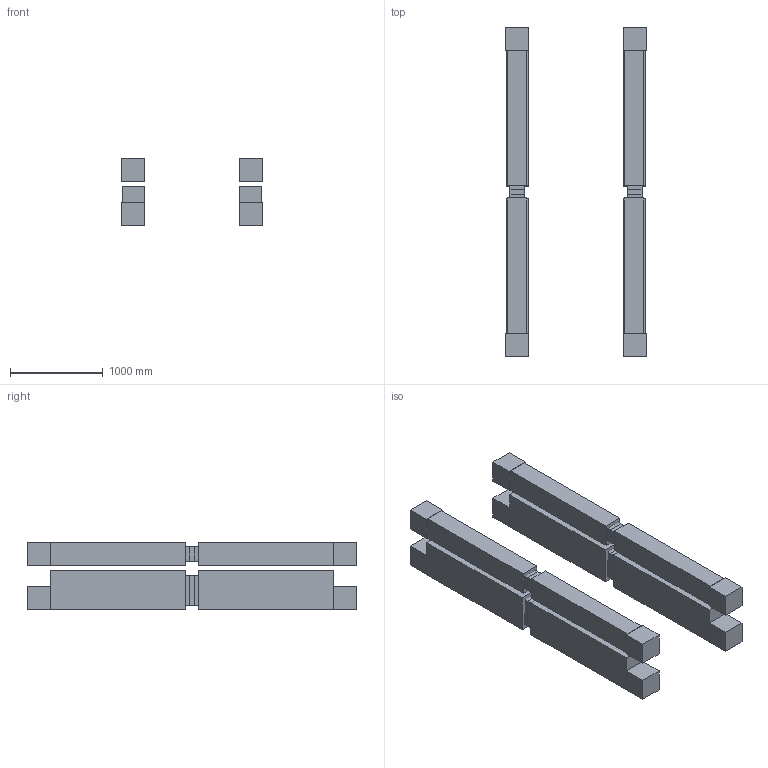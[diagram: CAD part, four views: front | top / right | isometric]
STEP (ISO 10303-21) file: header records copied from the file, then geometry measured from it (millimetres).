
FILE_DESCRIPTION(('Open CASCADE Model'),'2;1');
FILE_NAME('Open CASCADE Shape Model','2026-11-05T12:20:15',('Author'),( 'Open CASCADE'),'Open CASCADE STEP processor 7.9','Open CASCADE 7.9' ,'Unknown');
FILE_SCHEMA(('AP242_MANAGED_MODEL_BASED_3D_ENGINEERING_MIM_LF {1 0 10303 442 1 1 4 }' ));
Length unit declared in the file: millimetre
Products named in the file (25): D01_SERVICE_ENVELOPES_REFERENCE; AFP_FULL_ROTATION_BOUND; AFR_FULL_ROTATION_BOUND; ARP_FULL_ROTATION_BOUND; ARR_FULL_ROTATION_BOUND; BFP_FULL_ROTATION_BOUND; BFR_FULL_ROTATION_BOUND; BRP_FULL_ROTATION_BOUND; BRR_FULL_ROTATION_BOUND; AFP_ACTUATOR_SELECTION_RESERVE; AFR_ACTUATOR_SELECTION_RESERVE; ARP_ACTUATOR_SELECTION_RESERVE; ARR_ACTUATOR_SELECTION_RESERVE; BFP_ACTUATOR_SELECTION_RESERVE; BFR_ACTUATOR_SELECTION_RESERVE; BRP_ACTUATOR_SELECTION_RESERVE; BRR_ACTUATOR_SELECTION_RESERVE; AFP_ONE_COVER_SERVICE; AFR_ONE_COVER_SERVICE; ARP_ONE_COVER_SERVICE; ARR_ONE_COVER_SERVICE; BFP_ONE_COVER_SERVICE; BFR_ONE_COVER_SERVICE; BRP_ONE_COVER_SERVICE; BRR_ONE_COVER_SERVICE
Assembly tree (24 placements, depth 2):
  D01_SERVICE_ENVELOPES_REFERENCE
    AFP_FULL_ROTATION_BOUND
    AFR_FULL_ROTATION_BOUND
    ARP_FULL_ROTATION_BOUND
    ARR_FULL_ROTATION_BOUND
    BFP_FULL_ROTATION_BOUND
    BFR_FULL_ROTATION_BOUND
    BRP_FULL_ROTATION_BOUND
    BRR_FULL_ROTATION_BOUND
    AFP_ACTUATOR_SELECTION_RESERVE
    AFR_ACTUATOR_SELECTION_RESERVE
    ARP_ACTUATOR_SELECTION_RESERVE
    ARR_ACTUATOR_SELECTION_RESERVE
    BFP_ACTUATOR_SELECTION_RESERVE
    BFR_ACTUATOR_SELECTION_RESERVE
    BRP_ACTUATOR_SELECTION_RESERVE
    BRR_ACTUATOR_SELECTION_RESERVE
    AFP_ONE_COVER_SERVICE
    AFR_ONE_COVER_SERVICE
    ARP_ONE_COVER_SERVICE
    ARR_ONE_COVER_SERVICE
    BFP_ONE_COVER_SERVICE
    BFR_ONE_COVER_SERVICE
    BRP_ONE_COVER_SERVICE
    BRR_ONE_COVER_SERVICE
Bounding box: 1512.2 x 3543 x 731 mm (x, y, z)
Volume: 1061338397.1 mm3; surface area: 18659498.5 mm2
Topology: 24 solids, 24 shells, 144 faces, 288 edges, 192 vertices
Faces by surface type: plane 144
Entity records: 8035 total; most frequent: CARTESIAN_POINT 1225, DIRECTION 1202, LINE 864, VECTOR 864, ORIENTED_EDGE 576, PCURVE 576, DEFINITIONAL_REPRESENTATION 576, EDGE_CURVE 288
